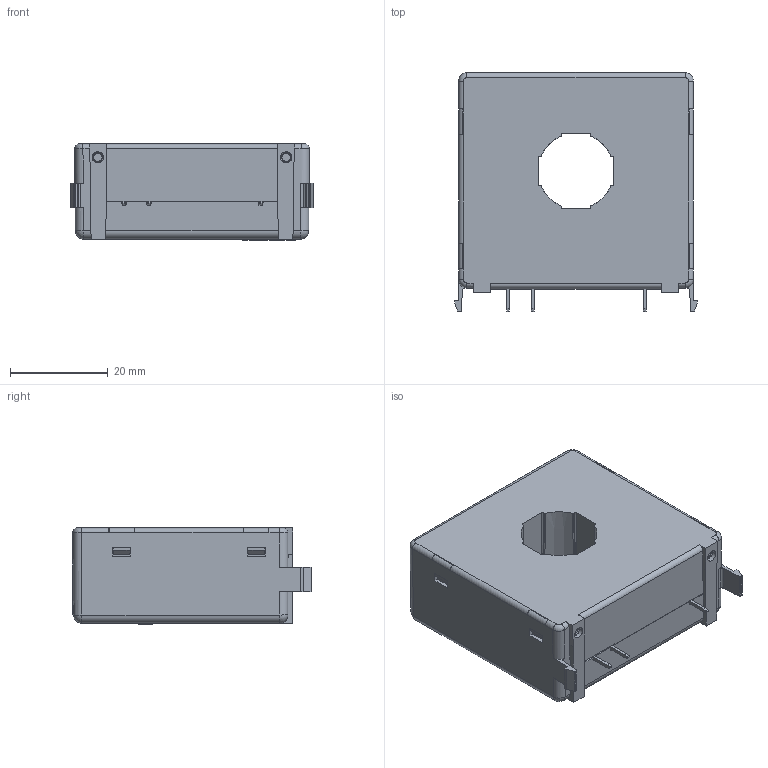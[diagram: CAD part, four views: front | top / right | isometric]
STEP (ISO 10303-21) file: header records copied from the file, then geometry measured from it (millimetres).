
FILE_DESCRIPTION(('CoCreate Modeling STEP Export'),'2;1');
FILE_NAME('LF 205-P_SP1_blackbox.stp','2009-03-11T15:25:46',(''),(''),'CoCreate Modeling STEP processor for AP214 (Solid Model)','CoCreate Modeling 16.00A 16-Aug-2008 (C) Parametric Technology GmbH','');
FILE_SCHEMA(('AUTOMOTIVE_DESIGN { 1 0 10303 214 1 1 1 1 }'));
Length unit declared in the file: millimetre
Products named in the file (5): pin.1.1; pin.1; boitier_pcb.T1; pin; LF205-P_SP1_blackbox
Assembly tree (4 placements, depth 2):
  LF205-P_SP1_blackbox
    pin
    boitier_pcb.T1
    pin.1
    pin.1.1
Bounding box: 49.56 x 49.05 x 19.68 mm (x, y, z)
Volume: 37066.3 mm3; surface area: 9915.9 mm2
Topology: 5 solids, 6 shells, 752 faces, 2029 edges, 1310 vertices
Faces by surface type: plane 570, cylinder 97, bspline 52, torus 16, cone 12, sphere 4, extrusion 1
Entity records: 28679 total; most frequent: CARTESIAN_POINT 10360, ORIENTED_EDGE 4036, DIRECTION 3328, EDGE_CURVE 2017, VECTOR 1598, LINE 1597, VERTEX_POINT 1310, AXIS2_PLACEMENT_3D 865
